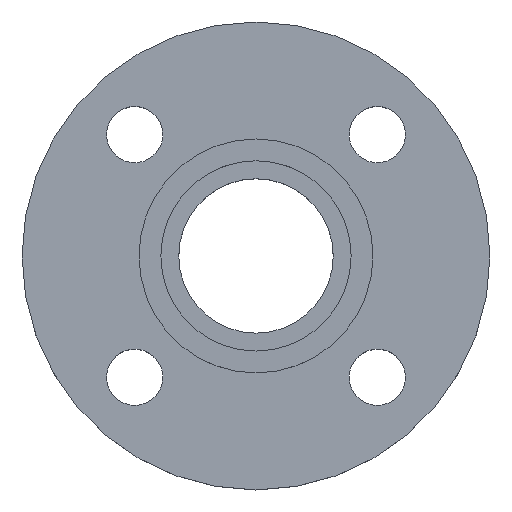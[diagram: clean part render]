
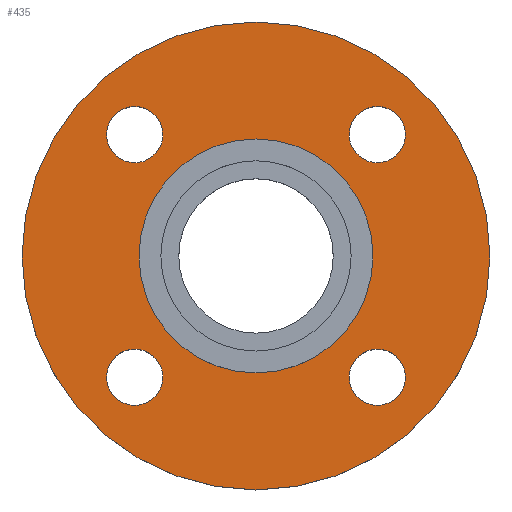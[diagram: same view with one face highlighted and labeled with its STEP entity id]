
A CAD part, top view. The second image highlights one B-rep face of the part: STEP entity #435.
In plain terms, the highlighted planar face has unit normal (0, 0, 1).
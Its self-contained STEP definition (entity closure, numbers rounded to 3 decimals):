
#16 = AXIS2_PLACEMENT_3D ( 'NONE', #123, #122, #121 ) ;
#46 = CIRCLE ( 'NONE', #356, 9. ) ;
#94 = CIRCLE ( 'NONE', #318, 9. ) ;
#95 = CARTESIAN_POINT ( 'NONE',  ( -29.891, 38.891, -4.5 ) ) ;
#97 = CARTESIAN_POINT ( 'NONE',  ( -37.5, 0., -4.5 ) ) ;
#98 = CARTESIAN_POINT ( 'NONE',  ( 37.5, 0., -4.5 ) ) ;
#116 = DIRECTION ( 'NONE',  ( -1., 0., 0. ) ) ;
#117 = DIRECTION ( 'NONE',  ( 0., 0., -1. ) ) ;
#119 = CARTESIAN_POINT ( 'NONE',  ( 0., 0., -4.5 ) ) ;
#121 = DIRECTION ( 'NONE',  ( -1., 0., 0. ) ) ;
#122 = DIRECTION ( 'NONE',  ( 0., 0., -1. ) ) ;
#123 = CARTESIAN_POINT ( 'NONE',  ( 0., 0., -4.5 ) ) ;
#139 = CIRCLE ( 'NONE', #16, 75. ) ;
#155 = CIRCLE ( 'NONE', #366, 9. ) ;
#165 = CARTESIAN_POINT ( 'NONE',  ( 47.891, 38.891, -4.5 ) ) ;
#170 = CARTESIAN_POINT ( 'NONE',  ( -47.891, -38.891, -4.5 ) ) ;
#178 = CARTESIAN_POINT ( 'NONE',  ( -75., 0., -4.5 ) ) ;
#181 = CARTESIAN_POINT ( 'NONE',  ( -29.891, -38.891, -4.5 ) ) ;
#192 = CARTESIAN_POINT ( 'NONE',  ( 29.891, -38.891, -4.5 ) ) ;
#203 = CIRCLE ( 'NONE', #615, 9. ) ;
#206 = AXIS2_PLACEMENT_3D ( 'NONE', #214, #212, #216 ) ;
#207 = CARTESIAN_POINT ( 'NONE',  ( 47.891, -38.891, -4.5 ) ) ;
#212 = DIRECTION ( 'NONE',  ( 0., 0., -1. ) ) ;
#214 = CARTESIAN_POINT ( 'NONE',  ( -38.891, -38.891, -4.5 ) ) ;
#216 = DIRECTION ( 'NONE',  ( 1., 0., 0. ) ) ;
#218 = CARTESIAN_POINT ( 'NONE',  ( -38.891, -38.891, -4.5 ) ) ;
#221 = DIRECTION ( 'NONE',  ( 1., 0., 0. ) ) ;
#222 = DIRECTION ( 'NONE',  ( 0., 0., -1. ) ) ;
#226 = AXIS2_PLACEMENT_3D ( 'NONE', #388, #389, #390 ) ;
#236 = CARTESIAN_POINT ( 'NONE',  ( -38.891, 38.891, -4.5 ) ) ;
#253 = CARTESIAN_POINT ( 'NONE',  ( 38.891, -38.891, -4.5 ) ) ;
#255 = DIRECTION ( 'NONE',  ( 0., 0., -1. ) ) ;
#257 = EDGE_CURVE ( 'NONE', #501, #512, #46, .T. ) ;
#259 = DIRECTION ( 'NONE',  ( 1., 0., 0. ) ) ;
#260 = CARTESIAN_POINT ( 'NONE',  ( 0., 0., -4.5 ) ) ;
#261 = DIRECTION ( 'NONE',  ( 0., 0., -1. ) ) ;
#262 = DIRECTION ( 'NONE',  ( -1., 0., 0. ) ) ;
#265 = CIRCLE ( 'NONE', #492, 9. ) ;
#270 = CARTESIAN_POINT ( 'NONE',  ( 38.891, 38.891, -4.5 ) ) ;
#271 = DIRECTION ( 'NONE',  ( 0., 0., -1. ) ) ;
#272 = DIRECTION ( 'NONE',  ( 1., 0., 0. ) ) ;
#273 = DIRECTION ( 'NONE',  ( 0., 0., -1. ) ) ;
#275 = EDGE_CURVE ( 'NONE', #552, #483, #410, .T. ) ;
#279 = DIRECTION ( 'NONE',  ( 1., 0., 0. ) ) ;
#283 = DIRECTION ( 'NONE',  ( 1., 0., 0. ) ) ;
#285 = DIRECTION ( 'NONE',  ( 0., 0., -1. ) ) ;
#293 = DIRECTION ( 'NONE',  ( 1., 0., 0. ) ) ;
#298 = AXIS2_PLACEMENT_3D ( 'NONE', #270, #271, #272 ) ;
#299 = CARTESIAN_POINT ( 'NONE',  ( 38.891, -38.891, -4.5 ) ) ;
#302 = CARTESIAN_POINT ( 'NONE',  ( 29.891, 38.891, -4.5 ) ) ;
#305 = EDGE_CURVE ( 'NONE', #496, #571, #403, .T. ) ;
#307 = CIRCLE ( 'NONE', #206, 9. ) ;
#318 = AXIS2_PLACEMENT_3D ( 'NONE', #299, #222, #293 ) ;
#344 = CARTESIAN_POINT ( 'NONE',  ( 38.891, 38.891, -4.5 ) ) ;
#349 = DIRECTION ( 'NONE',  ( 0., 0., -1. ) ) ;
#350 = DIRECTION ( 'NONE',  ( 1., 0., 0. ) ) ;
#356 = AXIS2_PLACEMENT_3D ( 'NONE', #253, #255, #259 ) ;
#366 = AXIS2_PLACEMENT_3D ( 'NONE', #236, #273, #279 ) ;
#373 = CIRCLE ( 'NONE', #226, 37.5 ) ;
#375 = CIRCLE ( 'NONE', #428, 9. ) ;
#384 = CARTESIAN_POINT ( 'NONE',  ( -38.891, 38.891, -4.5 ) ) ;
#385 = CIRCLE ( 'NONE', #452, 37.5 ) ;
#388 = CARTESIAN_POINT ( 'NONE',  ( 0., 0., -4.5 ) ) ;
#389 = DIRECTION ( 'NONE',  ( 0., 0., -1. ) ) ;
#390 = DIRECTION ( 'NONE',  ( -1., 0., 0. ) ) ;
#391 = FACE_BOUND ( 'NONE', #524, .T. ) ;
#392 = FACE_BOUND ( 'NONE', #459, .T. ) ;
#393 = FACE_BOUND ( 'NONE', #490, .T. ) ;
#394 = FACE_BOUND ( 'NONE', #554, .T. ) ;
#395 = EDGE_CURVE ( 'NONE', #571, #496, #203, .T. ) ;
#396 = FACE_BOUND ( 'NONE', #462, .T. ) ;
#397 = FACE_OUTER_BOUND ( 'NONE', #467, .T. ) ;
#398 = PLANE ( 'NONE',  #798 ) ;
#399 = CARTESIAN_POINT ( 'NONE',  ( 37.5, 0., -4.5 ) ) ;
#403 = CIRCLE ( 'NONE', #298, 9. ) ;
#406 = DIRECTION ( 'NONE',  ( 0., 0., 1. ) ) ;
#407 = DIRECTION ( 'NONE',  ( 1., 0., 0. ) ) ;
#410 = CIRCLE ( 'NONE', #790, 75. ) ;
#421 = CARTESIAN_POINT ( 'NONE',  ( -47.891, 38.891, -4.5 ) ) ;
#423 = CARTESIAN_POINT ( 'NONE',  ( 75., 0., -4.5 ) ) ;
#428 = AXIS2_PLACEMENT_3D ( 'NONE', #384, #285, #283 ) ;
#432 = EDGE_CURVE ( 'NONE', #666, #667, #373, .T. ) ;
#435 = ADVANCED_FACE ( 'NONE', ( #391, #392, #393, #394, #396, #397 ), #398, .T. ) ;
#437 = EDGE_CURVE ( 'NONE', #563, #532, #307, .T. ) ;
#440 = EDGE_CURVE ( 'NONE', #512, #501, #94, .T. ) ;
#448 = EDGE_CURVE ( 'NONE', #481, #671, #375, .T. ) ;
#452 = AXIS2_PLACEMENT_3D ( 'NONE', #119, #117, #116 ) ;
#456 = DIRECTION ( 'NONE',  ( 0., 0., -1. ) ) ;
#457 = EDGE_CURVE ( 'NONE', #532, #563, #265, .T. ) ;
#459 = EDGE_LOOP ( 'NONE', ( #584, #585 ) ) ;
#462 = EDGE_LOOP ( 'NONE', ( #590, #591 ) ) ;
#466 = EDGE_CURVE ( 'NONE', #671, #481, #155, .T. ) ;
#467 = EDGE_LOOP ( 'NONE', ( #593, #594 ) ) ;
#481 = VERTEX_POINT ( 'NONE', #421 ) ;
#483 = VERTEX_POINT ( 'NONE', #423 ) ;
#490 = EDGE_LOOP ( 'NONE', ( #586, #587 ) ) ;
#492 = AXIS2_PLACEMENT_3D ( 'NONE', #218, #456, #221 ) ;
#496 = VERTEX_POINT ( 'NONE', #302 ) ;
#501 = VERTEX_POINT ( 'NONE', #207 ) ;
#512 = VERTEX_POINT ( 'NONE', #192 ) ;
#524 = EDGE_LOOP ( 'NONE', ( #595, #569 ) ) ;
#532 = VERTEX_POINT ( 'NONE', #181 ) ;
#552 = VERTEX_POINT ( 'NONE', #178 ) ;
#554 = EDGE_LOOP ( 'NONE', ( #588, #589 ) ) ;
#563 = VERTEX_POINT ( 'NONE', #170 ) ;
#569 = ORIENTED_EDGE ( 'NONE', *, *, #440, .T. ) ;
#571 = VERTEX_POINT ( 'NONE', #165 ) ;
#584 = ORIENTED_EDGE ( 'NONE', *, *, #457, .T. ) ;
#585 = ORIENTED_EDGE ( 'NONE', *, *, #437, .T. ) ;
#586 = ORIENTED_EDGE ( 'NONE', *, *, #466, .T. ) ;
#587 = ORIENTED_EDGE ( 'NONE', *, *, #448, .T. ) ;
#588 = ORIENTED_EDGE ( 'NONE', *, *, #395, .T. ) ;
#589 = ORIENTED_EDGE ( 'NONE', *, *, #305, .T. ) ;
#590 = ORIENTED_EDGE ( 'NONE', *, *, #623, .T. ) ;
#591 = ORIENTED_EDGE ( 'NONE', *, *, #432, .T. ) ;
#593 = ORIENTED_EDGE ( 'NONE', *, *, #613, .F. ) ;
#594 = ORIENTED_EDGE ( 'NONE', *, *, #275, .F. ) ;
#595 = ORIENTED_EDGE ( 'NONE', *, *, #257, .T. ) ;
#613 = EDGE_CURVE ( 'NONE', #483, #552, #139, .T. ) ;
#615 = AXIS2_PLACEMENT_3D ( 'NONE', #344, #349, #350 ) ;
#623 = EDGE_CURVE ( 'NONE', #667, #666, #385, .T. ) ;
#666 = VERTEX_POINT ( 'NONE', #98 ) ;
#667 = VERTEX_POINT ( 'NONE', #97 ) ;
#671 = VERTEX_POINT ( 'NONE', #95 ) ;
#790 = AXIS2_PLACEMENT_3D ( 'NONE', #260, #261, #262 ) ;
#798 = AXIS2_PLACEMENT_3D ( 'NONE', #399, #406, #407 ) ;
